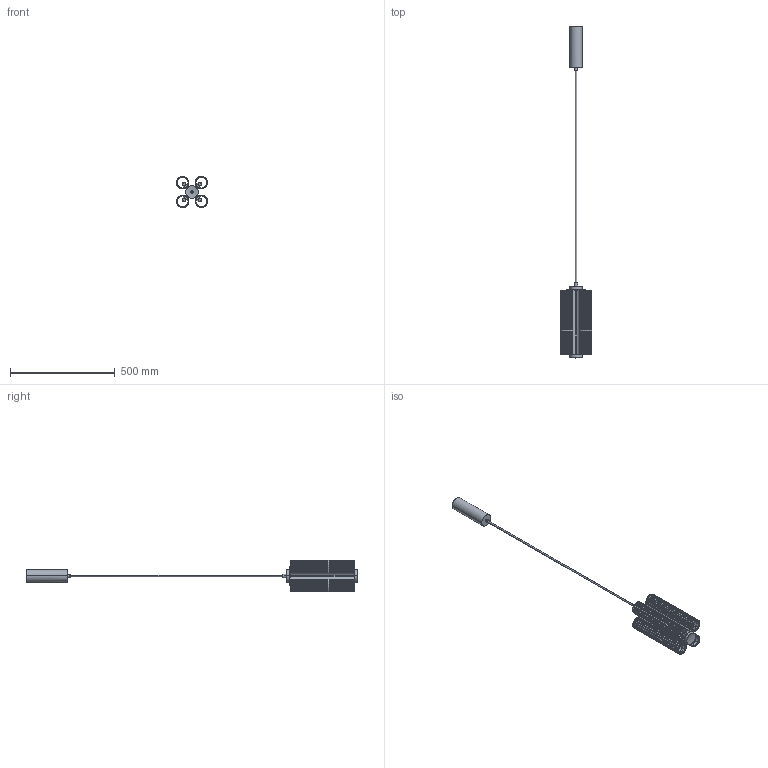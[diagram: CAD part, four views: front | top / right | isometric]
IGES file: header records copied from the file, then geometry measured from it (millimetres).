
Start section: SolidWorks IGES file using analytic representation for surfaces
Global section: file name: \\ARNOLD\compartida\Nueva Coleccion Septiembre 2026\RYST_1369\C1369_S\3D\RYST_C1359_S.IGS; native system: SolidWorks 2023; preprocessor: SolidWorks 2023; author: adrian; date: 260828.093300; units: millimetre
Bounding box: 149.27 x 1588.51 x 149.28 mm (x, y, z)
Surface area: 934472.2 mm2 (no closed solid volume)
Topology: 0 solids, 0 shells, 937 faces, 10652 edges, 10650 vertices
Faces by surface type: bspline 661, revolution 276
